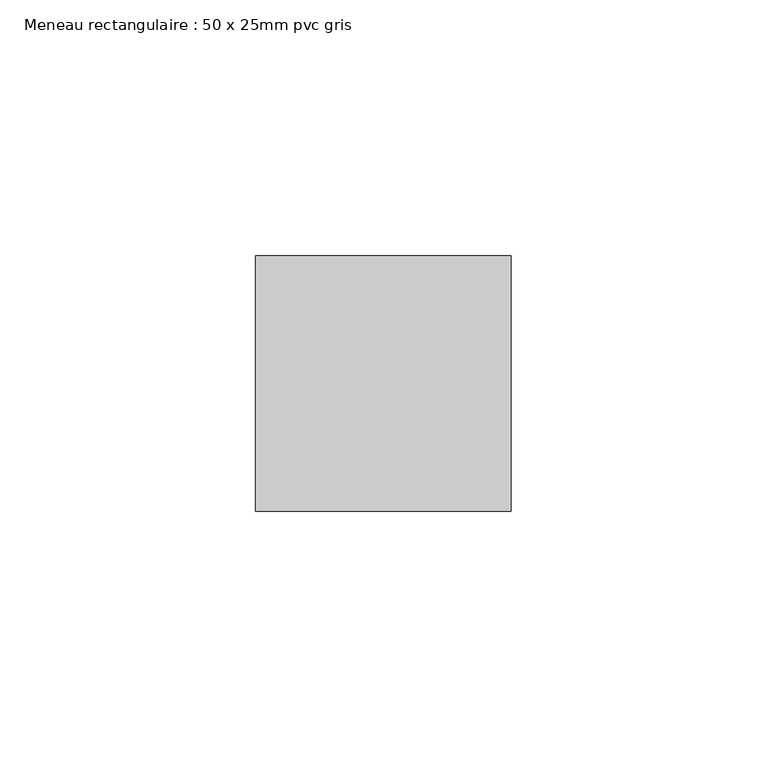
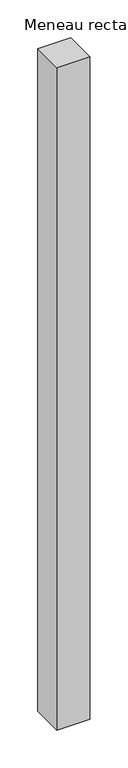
"""IFC4 building model written with IfcOpenShell, lengths in millimetres: member geometry, Meneau rectangulaire : 50 x 25mm pvc gris."""

from ifc_helpers import new_model, si_unit, frame, origin, place, context, project, spatial, polyline, outline, extrude, source, transform, mapped, element, save


def meneau_rectangulaire_50_x_25mm_pvc_gris_191137bf(model_context):
    return source(origin(), model_context, "Body", "SweptSolid", [
        extrude(outline(polyline([(0.0, 0.0), (0.0, -50.0), (-50.0, -50.0), (-50.0, 0.0), (0.0, 0.0)])), frame((0.0, 0.0, -1066.4778931), z_axis=(0.0, 0.0, 1.0), x_axis=(1.0, 0.0, 0.0)), (0.0, 0.0, 1.0), 1066.4778931),
    ])


if __name__ == "__main__":
    model = new_model("IFC4")
    model_context = context("Model", 3, world=origin())
    ifc_project = project(units=[si_unit("LENGTHUNIT", "METRE", prefix="MILLI")], contexts=[model_context])
    site = spatial("IfcSite", under=ifc_project)
    building = spatial("IfcBuilding", under=site)
    placement = place(None, origin())
    meneau_rectangulaire_50_x_25mm_pvc_gris_shape = meneau_rectangulaire_50_x_25mm_pvc_gris_191137bf(model_context)
    element("IfcMember", 1, ObjectType="Meneau rectangulaire : 50 x 25mm pvc gris", at=placement, inside=building, context=model_context, shape_type="MappedRepresentation", body=[
        mapped(meneau_rectangulaire_50_x_25mm_pvc_gris_shape, transform((0.0, 0.0, 0.0), x_axis=(1.0, 0.0, 0.0), y_axis=(0.0, 1.0, 0.0), z_axis=(0.0, 0.0, 1.0))),
    ])
    save(model, "model.ifc")
